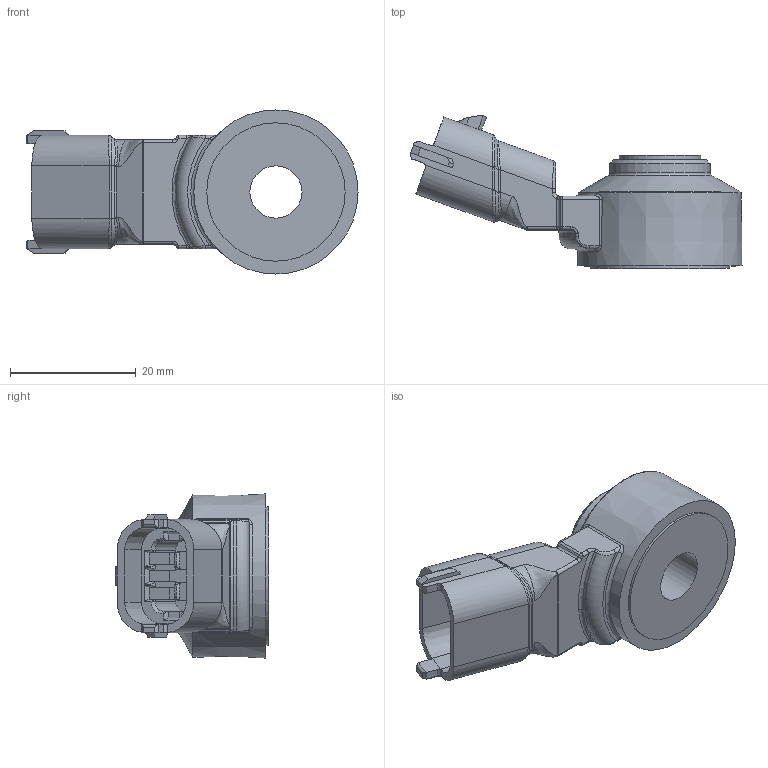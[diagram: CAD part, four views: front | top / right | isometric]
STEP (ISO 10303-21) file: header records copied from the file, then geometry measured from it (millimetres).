
FILE_DESCRIPTION(/* description */ (''),/* implementation_level */ '2;1');
FILE_NAME(/* name */ '0261231176.R001_Kundeneibnbaumodell',/* time_stamp */ '2011-11-21T08:38:13+01:00',/* author */ (''),/* organization */ (''),/* preprocessor_version */ 'ST-DEVELOPER v9',/* originating_system */ 'UGS - NX 4.0',/* authorisation */ '');
FILE_SCHEMA (('AUTOMOTIVE_DESIGN { 1 0 10303 214 1 1 1 1 }'));
Length unit declared in the file: millimetre
Products named in the file (1): sho36C250218
Bounding box: 52.79 x 24.33 x 26.1 mm (x, y, z)
Volume: 9852.3 mm3; surface area: 5566.2 mm2
Topology: 1 solids, 2 shells, 301 faces, 733 edges, 438 vertices
Faces by surface type: plane 162, cylinder 64, bspline 44, cone 13, torus 12, sphere 6
Full cylindrical faces by diameter (mm): 1 x2, 8.3 x1, 13 x1, 14 x1, 16 x1, 21 x1, 22 x1
Entity records: 10388 total; most frequent: CARTESIAN_POINT 3640, ORIENTED_EDGE 1414, DIRECTION 1337, EDGE_CURVE 707, AXIS2_PLACEMENT_3D 450, LINE 437, VECTOR 437, VERTEX_POINT 433
